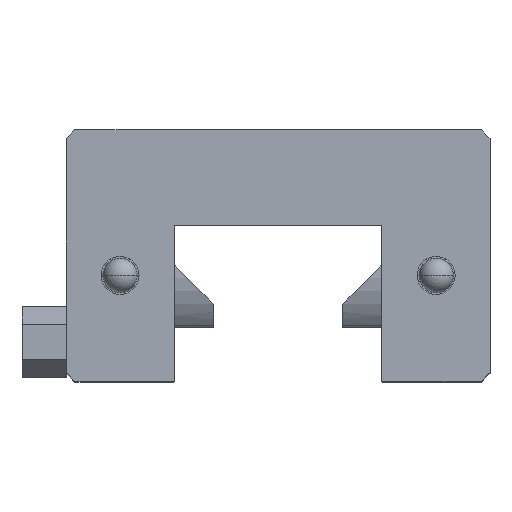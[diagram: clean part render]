
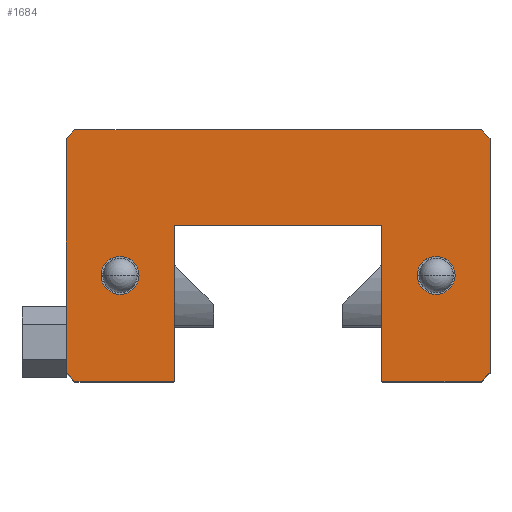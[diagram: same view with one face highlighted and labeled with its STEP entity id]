
A CAD part, top view. The second image highlights one B-rep face of the part: STEP entity #1684.
In plain terms, the highlighted planar face has unit normal (0, 0, 1).
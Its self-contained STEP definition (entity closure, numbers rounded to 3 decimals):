
#1594 = VERTEX_POINT( '', #4474 );
#1652 = EDGE_CURVE( '', #2794, #3028, #4537, .T. );
#1684 = ADVANCED_FACE( '', ( #4572, #4573, #4574 ), #4575, .T. );
#1866 = VERTEX_POINT( '', #4777 );
#1944 = VERTEX_POINT( '', #4864 );
#1978 = VERTEX_POINT( '', #4901 );
#2126 = EDGE_CURVE( '', #3180, #1594, #5075, .T. );
#2364 = EDGE_CURVE( '', #3778, #4232, #5340, .T. );
#2520 = EDGE_CURVE( '', #1866, #4072, #5518, .T. );
#2550 = EDGE_CURVE( '', #1978, #3384, #5550, .T. );
#2794 = VERTEX_POINT( '', #5825 );
#2804 = EDGE_CURVE( '', #1944, #3424, #5836, .T. );
#2806 = EDGE_CURVE( '', #2946, #1978, #5838, .T. );
#2946 = VERTEX_POINT( '', #5991 );
#3028 = VERTEX_POINT( '', #6098 );
#3138 = EDGE_CURVE( '', #4072, #2946, #6219, .T. );
#3152 = VERTEX_POINT( '', #6235 );
#3180 = VERTEX_POINT( '', #6268 );
#3234 = EDGE_CURVE( '', #4232, #3756, #6329, .T. );
#3344 = EDGE_CURVE( '', #3028, #1944, #6451, .T. );
#3384 = VERTEX_POINT( '', #6501 );
#3424 = VERTEX_POINT( '', #6545 );
#3428 = EDGE_CURVE( '', #3384, #3152, #6550, .T. );
#3490 = EDGE_CURVE( '', #3756, #4278, #6621, .T. );
#3606 = EDGE_CURVE( '', #3152, #2794, #6742, .T. );
#3736 = EDGE_CURVE( '', #1594, #3180, #6882, .T. );
#3756 = VERTEX_POINT( '', #6904 );
#3768 = EDGE_CURVE( '', #3808, #3944, #6917, .T. );
#3778 = VERTEX_POINT( '', #6927 );
#3808 = VERTEX_POINT( '', #6960 );
#3944 = VERTEX_POINT( '', #7112 );
#3990 = EDGE_CURVE( '', #3424, #3778, #7165, .T. );
#4016 = EDGE_CURVE( '', #3944, #3808, #7196, .T. );
#4054 = EDGE_CURVE( '', #4278, #1866, #7244, .T. );
#4072 = VERTEX_POINT( '', #7263 );
#4232 = VERTEX_POINT( '', #7439 );
#4278 = VERTEX_POINT( '', #7494 );
#4474 = CARTESIAN_POINT( '', ( 17.9, 19.65, 0. ) );
#4537 = LINE( '', #7822, #7823 );
#4572 = FACE_BOUND( '', #7865, .T. );
#4573 = FACE_BOUND( '', #7866, .T. );
#4574 = FACE_OUTER_BOUND( '', #7867, .T. );
#4575 = PLANE( '', #7868 );
#4777 = CARTESIAN_POINT( '', ( -11.75, 5.6, 0. ) );
#4864 = CARTESIAN_POINT( '', ( 23., 34., 0. ) );
#4901 = CARTESIAN_POINT( '', ( 11.75, 5.6, 0. ) );
#5075 = CIRCLE( '', #8549, 2.15 );
#5340 = LINE( '', #8909, #8910 );
#5518 = LINE( '', #9143, #9144 );
#5550 = LINE( '', #9191, #9192 );
#5825 = CARTESIAN_POINT( '', ( 24., 6.5, 0. ) );
#5836 = LINE( '', #9571, #9572 );
#5838 = LINE( '', #9575, #9576 );
#5991 = CARTESIAN_POINT( '', ( 11.75, 23.2, 0. ) );
#6098 = CARTESIAN_POINT( '', ( 24., 33., 0. ) );
#6219 = LINE( '', #10083, #10084 );
#6235 = CARTESIAN_POINT( '', ( 23., 5.5, 0. ) );
#6268 = CARTESIAN_POINT( '', ( 17.9, 15.35, 0. ) );
#6329 = LINE( '', #10227, #10228 );
#6451 = LINE( '', #10400, #10401 );
#6501 = CARTESIAN_POINT( '', ( 11.85, 5.5, 0. ) );
#6545 = CARTESIAN_POINT( '', ( -23., 34., 0. ) );
#6550 = LINE( '', #10534, #10535 );
#6621 = LINE( '', #10626, #10627 );
#6742 = LINE( '', #10814, #10815 );
#6882 = CIRCLE( '', #11008, 2.15 );
#6904 = CARTESIAN_POINT( '', ( -23., 5.5, 0. ) );
#6917 = CIRCLE( '', #11057, 2.15 );
#6927 = CARTESIAN_POINT( '', ( -24., 33., 0. ) );
#6960 = CARTESIAN_POINT( '', ( -17.9, 19.65, 0. ) );
#7112 = CARTESIAN_POINT( '', ( -17.9, 15.35, 0. ) );
#7165 = LINE( '', #11399, #11400 );
#7196 = CIRCLE( '', #11444, 2.15 );
#7244 = LINE( '', #11503, #11504 );
#7263 = CARTESIAN_POINT( '', ( -11.75, 23.2, 0. ) );
#7439 = CARTESIAN_POINT( '', ( -24., 6.5, 0. ) );
#7494 = CARTESIAN_POINT( '', ( -11.85, 5.5, 0. ) );
#7822 = CARTESIAN_POINT( '', ( 24., 6.5, 0. ) );
#7823 = VECTOR( '', #12065, 1. );
#7865 = EDGE_LOOP( '', ( #12099, #12100 ) );
#7866 = EDGE_LOOP( '', ( #12101, #12102 ) );
#7867 = EDGE_LOOP( '', ( #12103, #12104, #12105, #12106, #12107, #12108, #12109, #12110, #12111, #12112, #12113, #12114, #12115, #12116 ) );
#7868 = AXIS2_PLACEMENT_3D( '', #12117, #12118, #12119 );
#8549 = AXIS2_PLACEMENT_3D( '', #12726, #12727, #12728 );
#8909 = CARTESIAN_POINT( '', ( -24., 33., 0. ) );
#8910 = VECTOR( '', #13004, 1. );
#9143 = CARTESIAN_POINT( '', ( -11.75, 5.6, 0. ) );
#9144 = VECTOR( '', #13215, 1. );
#9191 = CARTESIAN_POINT( '', ( 11.75, 5.6, 0. ) );
#9192 = VECTOR( '', #13244, 1. );
#9571 = CARTESIAN_POINT( '', ( 23., 34., 0. ) );
#9572 = VECTOR( '', #13572, 1. );
#9575 = CARTESIAN_POINT( '', ( 11.75, 23.2, 0. ) );
#9576 = VECTOR( '', #13573, 1. );
#10083 = CARTESIAN_POINT( '', ( -11.75, 23.2, 0. ) );
#10084 = VECTOR( '', #14024, 1. );
#10227 = CARTESIAN_POINT( '', ( -24., 6.5, 0. ) );
#10228 = VECTOR( '', #14169, 1. );
#10400 = CARTESIAN_POINT( '', ( 24., 33., 0. ) );
#10401 = VECTOR( '', #14323, 1. );
#10534 = CARTESIAN_POINT( '', ( 11.85, 5.5, 0. ) );
#10535 = VECTOR( '', #14452, 1. );
#10626 = CARTESIAN_POINT( '', ( -23., 5.5, 0. ) );
#10627 = VECTOR( '', #14534, 1. );
#10814 = CARTESIAN_POINT( '', ( 23., 5.5, 0. ) );
#10815 = VECTOR( '', #14635, 1. );
#11008 = AXIS2_PLACEMENT_3D( '', #14758, #14759, #14760 );
#11057 = AXIS2_PLACEMENT_3D( '', #14791, #14792, #14793 );
#11399 = CARTESIAN_POINT( '', ( -23., 34., 0. ) );
#11400 = VECTOR( '', #15082, 1. );
#11444 = AXIS2_PLACEMENT_3D( '', #15128, #15129, #15130 );
#11503 = CARTESIAN_POINT( '', ( -11.85, 5.5, 0. ) );
#11504 = VECTOR( '', #15213, 1. );
#12065 = DIRECTION( '', ( 0., 1., 0. ) );
#12099 = ORIENTED_EDGE( '', *, *, #3736, .T. );
#12100 = ORIENTED_EDGE( '', *, *, #2126, .T. );
#12101 = ORIENTED_EDGE( '', *, *, #3768, .T. );
#12102 = ORIENTED_EDGE( '', *, *, #4016, .T. );
#12103 = ORIENTED_EDGE( '', *, *, #2364, .T. );
#12104 = ORIENTED_EDGE( '', *, *, #3234, .T. );
#12105 = ORIENTED_EDGE( '', *, *, #3490, .T. );
#12106 = ORIENTED_EDGE( '', *, *, #4054, .T. );
#12107 = ORIENTED_EDGE( '', *, *, #2520, .T. );
#12108 = ORIENTED_EDGE( '', *, *, #3138, .T. );
#12109 = ORIENTED_EDGE( '', *, *, #2806, .T. );
#12110 = ORIENTED_EDGE( '', *, *, #2550, .T. );
#12111 = ORIENTED_EDGE( '', *, *, #3428, .T. );
#12112 = ORIENTED_EDGE( '', *, *, #3606, .T. );
#12113 = ORIENTED_EDGE( '', *, *, #1652, .T. );
#12114 = ORIENTED_EDGE( '', *, *, #3344, .T. );
#12115 = ORIENTED_EDGE( '', *, *, #2804, .T. );
#12116 = ORIENTED_EDGE( '', *, *, #3990, .T. );
#12117 = CARTESIAN_POINT( '', ( 0., 0., 0. ) );
#12118 = DIRECTION( '', ( 0., 0., 1. ) );
#12119 = DIRECTION( '', ( 1., 0., 0. ) );
#12726 = CARTESIAN_POINT( '', ( 17.9, 17.5, 0. ) );
#12727 = DIRECTION( '', ( 0., 0., -1. ) );
#12728 = DIRECTION( '', ( 0., -1., 0. ) );
#13004 = DIRECTION( '', ( 0., -1., 0. ) );
#13215 = DIRECTION( '', ( 0., 1., 0. ) );
#13244 = DIRECTION( '', ( 0.707, -0.707, 0. ) );
#13572 = DIRECTION( '', ( -1., 0., 0. ) );
#13573 = DIRECTION( '', ( 0., -1., 0. ) );
#14024 = DIRECTION( '', ( 1., 0., 0. ) );
#14169 = DIRECTION( '', ( 0.707, -0.707, 0. ) );
#14323 = DIRECTION( '', ( -0.707, 0.707, 0. ) );
#14452 = DIRECTION( '', ( 1., 0., 0. ) );
#14534 = DIRECTION( '', ( 1., 0., 0. ) );
#14635 = DIRECTION( '', ( 0.707, 0.707, 0. ) );
#14758 = CARTESIAN_POINT( '', ( 17.9, 17.5, 0. ) );
#14759 = DIRECTION( '', ( 0., 0., -1. ) );
#14760 = DIRECTION( '', ( 0., -1., 0. ) );
#14791 = CARTESIAN_POINT( '', ( -17.9, 17.5, 0. ) );
#14792 = DIRECTION( '', ( 0., 0., -1. ) );
#14793 = DIRECTION( '', ( 0., -1., 0. ) );
#15082 = DIRECTION( '', ( -0.707, -0.707, 0. ) );
#15128 = CARTESIAN_POINT( '', ( -17.9, 17.5, 0. ) );
#15129 = DIRECTION( '', ( 0., 0., -1. ) );
#15130 = DIRECTION( '', ( 0., -1., 0. ) );
#15213 = DIRECTION( '', ( 0.707, 0.707, 0. ) );
